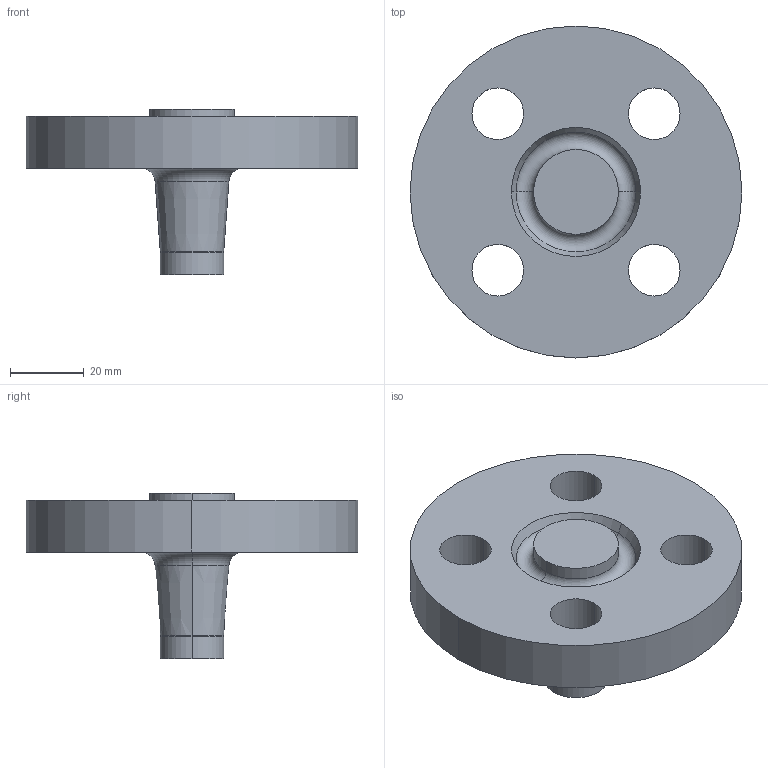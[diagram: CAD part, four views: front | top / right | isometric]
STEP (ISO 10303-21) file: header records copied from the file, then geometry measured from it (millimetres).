
FILE_DESCRIPTION (( 'STEP AP214' ), '1' );
FILE_NAME ('PN40 DN10 Type 21(ii) - Type H Face.STEP', '2018-12-29T05:04:05', ( '' ), ( '' ), 'SwSTEP 2.0', 'SolidWorks 2019', '' );
FILE_SCHEMA (( 'AUTOMOTIVE_DESIGN' ));
Length unit declared in the file: millimetre
Products named in the file (1): PN40 DN10 Type 21(ii) - Type H Face
Bounding box: 90 x 90 x 45 mm (x, y, z)
Volume: 87685.3 mm3; surface area: 20004 mm2
Topology: 1 solids, 1 shells, 28 faces, 62 edges, 38 vertices
Faces by surface type: cylinder 14, torus 6, cone 4, plane 4
Entity records: 840 total; most frequent: DIRECTION 164, CARTESIAN_POINT 129, ORIENTED_EDGE 124, AXIS2_PLACEMENT_3D 73, EDGE_CURVE 62, CIRCLE 44, EDGE_LOOP 38, VERTEX_POINT 38
